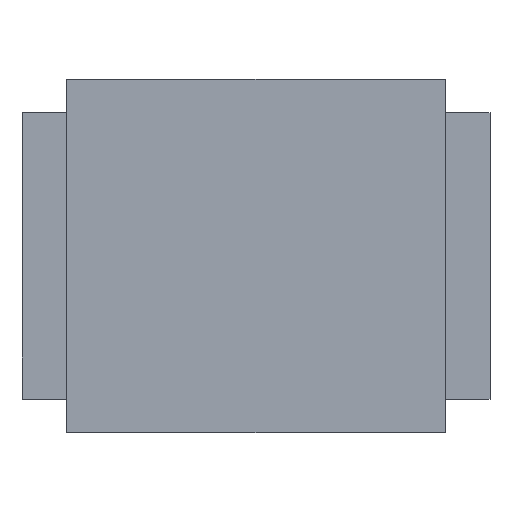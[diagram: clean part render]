
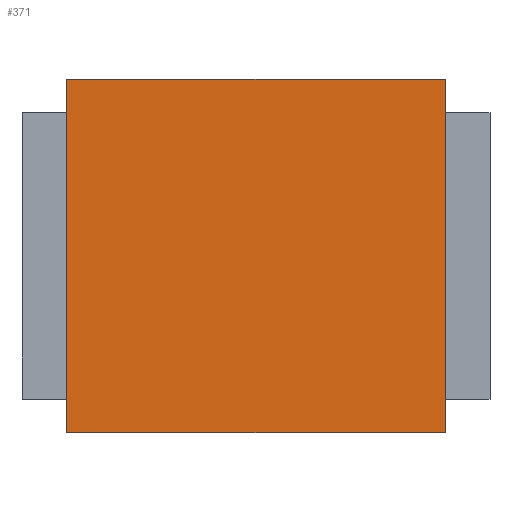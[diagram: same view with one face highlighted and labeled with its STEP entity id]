
A CAD part, top view. The second image highlights one B-rep face of the part: STEP entity #371.
In plain terms, the highlighted planar face has unit normal (0, 0, 1).
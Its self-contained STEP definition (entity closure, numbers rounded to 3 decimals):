
#371=ADVANCED_FACE('',(#617),#619,.T.);
#617=FACE_BOUND('',#618,.T.);
#618=EDGE_LOOP('',(#968,#969,#970,#971));
#619=PLANE('',#620);
#620=AXIS2_PLACEMENT_3D('',#621,#622,#623);
#621=CARTESIAN_POINT('',(0.,0.,0.96));
#622=DIRECTION('',(0.,0.,1.));
#623=DIRECTION('',(-1.,0.,0.));
#968=ORIENTED_EDGE('',*,*,#1174,.T.);
#969=ORIENTED_EDGE('',*,*,#1196,.T.);
#970=ORIENTED_EDGE('',*,*,#1186,.T.);
#971=ORIENTED_EDGE('',*,*,#1184,.T.);
#1174=EDGE_CURVE('',#1401,#1399,#1402,.F.);
#1184=EDGE_CURVE('',#1416,#1401,#1417,.T.);
#1186=EDGE_CURVE('',#1419,#1416,#1420,.F.);
#1196=EDGE_CURVE('',#1399,#1419,#1434,.T.);
#1399=VERTEX_POINT('',#1694);
#1401=VERTEX_POINT('',#1698);
#1402=LINE('',#1699,#1700);
#1416=VERTEX_POINT('',#1733);
#1417=LINE('',#1734,#1735);
#1419=VERTEX_POINT('',#1740);
#1420=LINE('',#1741,#1742);
#1434=LINE('',#1775,#1776);
#1694=CARTESIAN_POINT('',(-0.927,-0.865,0.96));
#1698=CARTESIAN_POINT('',(-0.927,0.865,0.96));
#1699=CARTESIAN_POINT('',(-0.927,-0.865,0.96));
#1700=VECTOR('',#1701,1.);
#1701=DIRECTION('',(0.,1.,0.));
#1733=CARTESIAN_POINT('',(0.927,0.865,0.96));
#1734=CARTESIAN_POINT('',(0.927,0.865,0.96));
#1735=VECTOR('',#1736,1.);
#1736=DIRECTION('',(-1.,0.,0.));
#1740=CARTESIAN_POINT('',(0.927,-0.865,0.96));
#1741=CARTESIAN_POINT('',(0.927,0.865,0.96));
#1742=VECTOR('',#1743,1.);
#1743=DIRECTION('',(0.,-1.,0.));
#1775=CARTESIAN_POINT('',(-0.927,-0.865,0.96));
#1776=VECTOR('',#1777,1.);
#1777=DIRECTION('',(1.,0.,0.));
